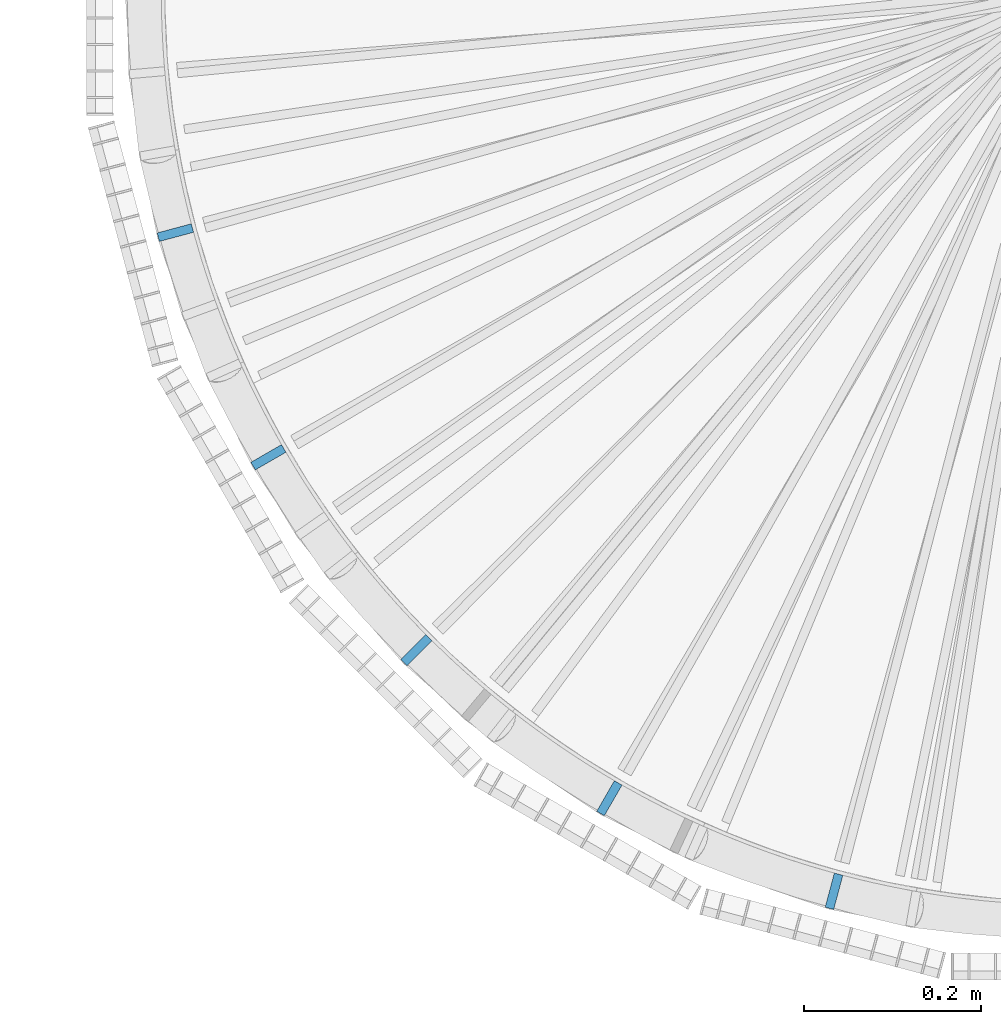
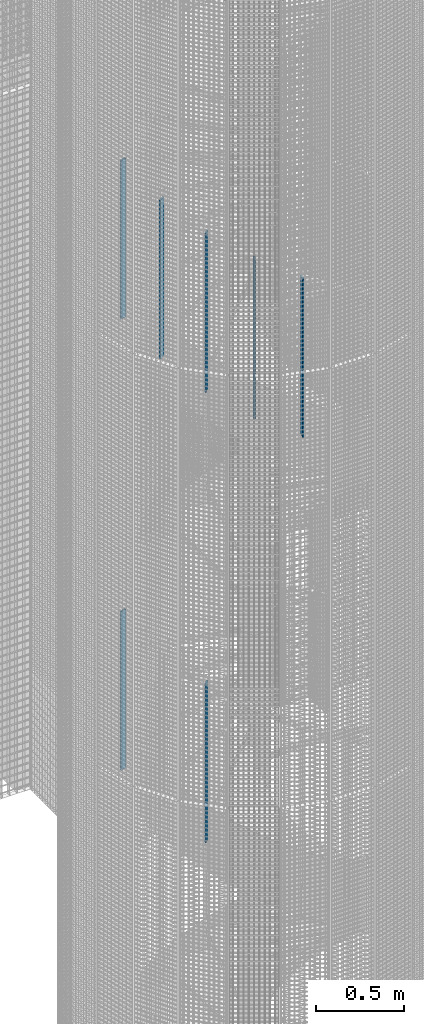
# One storey, part 39 of 1148: 7 columns, 7 elements without a shape of their own.
"""IFC2X3 building model written with IfcOpenShell, lengths in millimetres."""

import ifcopenshell
import ifcopenshell.guid

model = None  # the IFC model being written
_history = None  # IfcOwnerHistory: only IFC2X3 demands one
_inside = {}  # id of a spatial element -> (the spatial element, [elements in it])
_under = {}  # id of a project, library or spatial element -> (it, [spatial elements below it])
_declared = {}  # id of a project -> (the project, [libraries it declares])
_typed = {}  # id of a type object -> (the type object, [elements of that type])
_made_of = {}  # id of a material, layer set ... -> (it, [elements and type objects made of it])


def new_model(schema):
    """Start an empty IFC model of exactly this schema.

    Asked for "IFC4X3", IfcOpenShell would pick the latest addendum, in which some entities
    have other attributes; the version numbers below select the first issue.
    IFC2X3 requires an IfcOwnerHistory on every rooted entity: one is made here for all.
    """
    global model, _history
    if schema == "IFC4X3":
        model = ifcopenshell.file(schema_version=(4, 3, 0, 0))
    else:
        model = ifcopenshell.file(schema=schema)
    _inside.clear()
    _under.clear()
    _declared.clear()
    _typed.clear()
    _made_of.clear()
    _history = None
    if model.schema == "IFC2X3":
        org = make("IfcOrganization", Name="unknown")
        user = make(
            "IfcPersonAndOrganization",
            ThePerson=make("IfcPerson", FamilyName="unknown"),
            TheOrganization=org,
        )
        app = make(
            "IfcApplication",
            ApplicationDeveloper=org,
            Version="unknown",
            ApplicationFullName="unknown",
            ApplicationIdentifier="unknown",
        )
        _history = make(
            "IfcOwnerHistory",
            OwningUser=user,
            OwningApplication=app,
            ChangeAction="ADDED",
            CreationDate=0,
        )
    return model


def make(cls, **values):
    """One entity of the class cls with the attributes given. An attribute that is None is left unset."""
    return model.create_entity(
        cls, **{name: value for name, value in values.items() if value is not None}
    )


def rooted(cls, **values):
    """An entity with a GlobalId (a new one), such as an element, a storey or a relation."""
    return make(cls, GlobalId=ifcopenshell.guid.new(), OwnerHistory=_history, **values)


def si_unit(unit_type, name, prefix=None):
    """IfcSIUnit, for example si_unit("LENGTHUNIT", "METRE", prefix="MILLI")."""
    return make("IfcSIUnit", UnitType=unit_type, Prefix=prefix, Name=name)


def assignment(units):
    """IfcUnitAssignment: the units of a project."""
    return None if units is None else make("IfcUnitAssignment", Units=units)


def point(xyz):
    """IfcCartesianPoint."""
    return None if xyz is None else make("IfcCartesianPoint", Coordinates=xyz)


def direction(xyz):
    """IfcDirection."""
    return None if xyz is None else make("IfcDirection", DirectionRatios=xyz)


def frame(location, z_axis=None, x_axis=None):
    """IfcAxis2Placement3D, a coordinate frame: its origin and axes. An axis left out is left unset."""
    return make(
        "IfcAxis2Placement3D",
        Location=point(location),
        Axis=direction(z_axis),
        RefDirection=direction(x_axis),
    )


def frame_2d(location, x_axis=None):
    """IfcAxis2Placement2D, a coordinate frame in the plane: its origin and x axis."""
    return make(
        "IfcAxis2Placement2D", Location=point(location), RefDirection=direction(x_axis)
    )


def origin_with_axes():
    """The frame at (0, 0, 0) with the z axis (0, 0, 1) and the x axis (1, 0, 0) written out."""
    return frame((0.0, 0.0, 0.0), z_axis=(0.0, 0.0, 1.0), x_axis=(1.0, 0.0, 0.0))


def origin_2d_with_axis():
    """The frame at (0, 0) in the plane with the x axis (1, 0) written out."""
    return frame_2d((0.0, 0.0), x_axis=(1.0, 0.0))


def place(relative_to, where):
    """IfcLocalPlacement: puts the frame where relative to a parent placement (None: the world)."""
    return make(
        "IfcLocalPlacement", PlacementRelTo=relative_to, RelativePlacement=where
    )


def context(
    kind, dimensions, precision=None, world=None, true_north=None, identifier=None
):
    """IfcGeometricRepresentationContext, for example the 3D "Model" context."""
    return make(
        "IfcGeometricRepresentationContext",
        ContextIdentifier=identifier,
        ContextType=kind,
        CoordinateSpaceDimension=dimensions,
        Precision=precision,
        WorldCoordinateSystem=world,
        TrueNorth=true_north,
    )


def subcontext(parent, identifier, kind, view, scale=None):
    """IfcGeometricRepresentationSubContext, for example "Body" below "Model"."""
    return make(
        "IfcGeometricRepresentationSubContext",
        ContextIdentifier=identifier,
        ContextType=kind,
        ParentContext=parent,
        TargetScale=scale,
        TargetView=view,
    )


def project(units=None, contexts=None):
    """IfcProject with its units and contexts."""
    return rooted(
        "IfcProject",
        Name="project",
        RepresentationContexts=contexts,
        UnitsInContext=assignment(units),
    )


def spatial(cls, under=None, at=None, **own):
    """A site, building, storey or space (cls), placed at a placement, below another one or the project."""
    s = rooted(cls, ObjectPlacement=at, **own)
    if under is not None:
        _under.setdefault(under.id(), (under, []))[1].append(s)
    return s


def profile(cls, at=None, kind="AREA", **sizes):
    """A parametric profile (cls). Its sizes go by their IFC names, for example OverallWidth=200.0."""
    return make(cls, ProfileType=kind, Position=at, **sizes)


def rectangle(**sizes):
    """IfcRectangleProfileDef."""
    return profile("IfcRectangleProfileDef", **sizes)


def extrude(swept, where, along, depth):
    """IfcExtrudedAreaSolid: the profile swept, set in the frame where, extruded along a direction by depth."""
    return make(
        "IfcExtrudedAreaSolid",
        SweptArea=swept,
        Position=where,
        ExtrudedDirection=direction(along),
        Depth=depth,
    )


def shape(context_of_items, identifier, shape_type, items):
    """IfcShapeRepresentation: the items that make up one representation, for example the "Body"."""
    return make(
        "IfcShapeRepresentation",
        ContextOfItems=context_of_items,
        RepresentationIdentifier=identifier,
        RepresentationType=shape_type,
        Items=items,
    )


def material(Name=None, Category=None):
    """IfcMaterial."""
    return make("IfcMaterial", Name=Name, Category=Category)


def made_of(thing, what):
    """Note that an element or type object is made of a material, layer set ...; save() writes the relation."""
    if what is not None:
        _made_of.setdefault(what.id(), (what, []))[1].append(thing)
    return thing


def type_object(cls, material=None, **own):
    """A type object (cls), such as IfcWallType, which elements share."""
    return made_of(rooted(cls, **own), material)


def element(
    cls,
    number,
    at=None,
    inside=None,
    cuts=None,
    type_object=None,
    material=None,
    context=None,
    identifier="Body",
    shape_type=None,
    held_by="IfcProductDefinitionShape",
    body=None,
    shapes=None,
    **own,
):
    """One element of the class cls, such as IfcWall. Its Tag is "e" and its number.

    at: its placement. inside: the storey or other place that contains it. cuts: it is an
    opening in that element (IfcRelVoidsElement). A single representation is given by context,
    identifier, shape_type and body (its items); several are given by shapes. held_by: the class
    of the entity that holds the representations. save() writes the other relations.
    """
    e = rooted(cls, Tag="e%d" % number, ObjectPlacement=at, **own)
    if body is not None:
        shapes = [shape(context, identifier, shape_type, body)]
    if shapes is not None:
        e.Representation = make(held_by, Representations=shapes)
    if inside is not None:
        _inside.setdefault(inside.id(), (inside, []))[1].append(e)
    if cuts is not None:
        rooted(
            "IfcRelVoidsElement", RelatingBuildingElement=cuts, RelatedOpeningElement=e
        )
    if type_object is not None:
        _typed.setdefault(type_object.id(), (type_object, []))[1].append(e)
    return made_of(e, material)


def aggregate(whole, parts):
    """IfcRelAggregates: a whole, such as a stair, and the parts it consists of."""
    return rooted("IfcRelAggregates", RelatingObject=whole, RelatedObjects=parts)


def save(model, path):
    """Write the relations noted so far, then the file.

    IfcRelAggregates (storeys below a building ...), IfcRelContainedInSpatialStructure (elements
    in a storey), IfcRelDefinesByType, IfcRelAssociatesMaterial and IfcRelDeclares: one each for
    every whole, place, type object, material and project.
    """
    for whole, parts in _under.values():
        aggregate(whole, parts)
    for where, things in _inside.values():
        rooted(
            "IfcRelContainedInSpatialStructure",
            RelatedElements=things,
            RelatingStructure=where,
        )
    for kind, things in _typed.values():
        rooted("IfcRelDefinesByType", RelatedObjects=things, RelatingType=kind)
    for what, things in _made_of.values():
        rooted("IfcRelAssociatesMaterial", RelatedObjects=things, RelatingMaterial=what)
    for by, libraries in _declared.values():
        rooted("IfcRelDeclares", RelatingContext=by, RelatedDefinitions=libraries)
    model.write(path)


model = new_model("IFC2X3")

# Units and contexts
model_context = context("Model", 3, precision=1e-05, world=origin_with_axes())
body_context = subcontext(model_context, "Body", "Model", "MODEL_VIEW")
ifc_project = project(units=[si_unit("LENGTHUNIT", "METRE", prefix="MILLI"), si_unit("AREAUNIT", "SQUARE_METRE"), si_unit("VOLUMEUNIT", "CUBIC_METRE"), si_unit("MASSUNIT", "GRAM", prefix="KILO"), si_unit("TIMEUNIT", "SECOND"), si_unit("PLANEANGLEUNIT", "RADIAN"), si_unit("SOLIDANGLEUNIT", "STERADIAN"), si_unit("THERMODYNAMICTEMPERATUREUNIT", "DEGREE_CELSIUS"), si_unit("LUMINOUSINTENSITYUNIT", "LUMEN")], contexts=[model_context])

# Site, building, storey
site_placement = place(None, origin_with_axes())
site = spatial("IfcSite", under=ifc_project, at=site_placement, Name="Undefined", CompositionType="ELEMENT")
building_placement = place(site_placement, origin_with_axes())
building = spatial("IfcBuilding", under=site, at=building_placement, Name="Undefined", CompositionType="ELEMENT")
storey_placement = place(building_placement, origin_with_axes())
storey = spatial("IfcBuildingStorey", under=building, at=storey_placement, Name="Undefined", CompositionType="ELEMENT", Elevation=0.0)

# Assembly, column
assembly_1_placement = place(storey_placement, origin_with_axes())
assembly_1 = element("IfcElementAssembly", 1, at=assembly_1_placement, inside=storey, Name="MONTANT", AssemblyPlace="NOTDEFINED", PredefinedType="NOTDEFINED")
ifc_material = material(Name="STEEL/S235JR")
column_type = type_object("IfcColumnType", Name="PL10*40", PredefinedType="NOTDEFINED")
column_1_placement = place(assembly_1_placement, frame((20687.2092244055, -527.000000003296, 8994.32000000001), z_axis=(0.0, 0.0, 1.0), x_axis=(0.866025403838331, 0.499999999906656, 0.0)))
column_1 = element("IfcColumn", 2, at=column_1_placement, type_object=column_type, material=ifc_material, Name="MONTANT", context=body_context, shape_type="SweptSolid", body=[
    extrude(rectangle(XDim=10.0, YDim=40.0, at=origin_2d_with_axis()), frame((0.0, 0.0, 1100.0), z_axis=(0.0, 0.0, -1.0), x_axis=(0.0, 1.0, 0.0)), (0.0, 0.0, 1.0), 1100.0),
])
aggregate(assembly_1, [column_1])

assembly_2_placement = place(storey_placement, origin_with_axes())
assembly_2 = element("IfcElementAssembly", 3, at=assembly_2_placement, inside=storey, Name="MONTANT", AssemblyPlace="NOTDEFINED", PredefinedType="NOTDEFINED")
column_2_placement = place(assembly_2_placement, frame((20581.9141790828, -272.795273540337, 9150.84000000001), z_axis=(0.0, 0.0, 1.0), x_axis=(0.965925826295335, 0.258819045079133, 0.0)))
column_2 = element("IfcColumn", 4, at=column_2_placement, type_object=column_type, material=ifc_material, Name="MONTANT", context=body_context, shape_type="SweptSolid", body=[
    extrude(rectangle(XDim=10.0, YDim=40.0, at=origin_2d_with_axis()), frame((0.0, 0.0, 1100.0), z_axis=(0.0, 0.0, -1.0), x_axis=(0.0, 1.0, 0.0)), (0.0, 0.0, 1.0), 1100.0),
])
aggregate(assembly_2, [column_2])

assembly_3_placement = place(storey_placement, origin_with_axes())
assembly_3 = element("IfcElementAssembly", 5, at=assembly_3_placement, inside=storey, Name="MONTANT", AssemblyPlace="NOTDEFINED", PredefinedType="NOTDEFINED")
column_3_placement = place(assembly_3_placement, frame((20854.7094526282, -745.290547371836, 8837.80000000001), z_axis=(0.0, 0.0, 1.0), x_axis=(0.707106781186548, 0.707106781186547, 0.0)))
column_3 = element("IfcColumn", 6, at=column_3_placement, type_object=column_type, material=ifc_material, Name="MONTANT", context=body_context, shape_type="SweptSolid", body=[
    extrude(rectangle(XDim=10.0, YDim=40.0, at=origin_2d_with_axis()), frame((0.0, 0.0, 1100.0), z_axis=(0.0, 0.0, -1.0), x_axis=(0.0, 1.0, 0.0)), (0.0, 0.0, 1.0), 1100.0),
])
aggregate(assembly_3, [column_3])

assembly_4_placement = place(storey_placement, origin_with_axes())
assembly_4 = element("IfcElementAssembly", 7, at=assembly_4_placement, inside=storey, Name="MONTANT", AssemblyPlace="NOTDEFINED", PredefinedType="NOTDEFINED")
column_4_placement = place(assembly_4_placement, frame((21072.9999999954, -912.790775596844, 8681.28000000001), z_axis=(0.0, 0.0, 1.0), x_axis=(0.49999999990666, 0.866025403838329, 0.0)))
column_4 = element("IfcColumn", 8, at=column_4_placement, type_object=column_type, material=ifc_material, Name="MONTANT", context=body_context, shape_type="SweptSolid", body=[
    extrude(rectangle(XDim=10.0, YDim=40.0, at=origin_2d_with_axis()), frame((0.0, 0.0, 1100.0), z_axis=(0.0, 0.0, -1.0), x_axis=(0.0, 1.0, 0.0)), (0.0, 0.0, 1.0), 1100.0),
])
aggregate(assembly_4, [column_4])

assembly_5_placement = place(storey_placement, origin_with_axes())
assembly_5 = element("IfcElementAssembly", 9, at=assembly_5_placement, inside=storey, Name="MONTANT", AssemblyPlace="NOTDEFINED", PredefinedType="NOTDEFINED")
column_5_placement = place(assembly_5_placement, frame((21327.2047264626, -1018.08582090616, 8524.76000000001), z_axis=(0.0, 0.0, 1.0), x_axis=(0.258819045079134, 0.965925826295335, 0.0)))
column_5 = element("IfcColumn", 10, at=column_5_placement, type_object=column_type, material=ifc_material, Name="MONTANT", context=body_context, shape_type="SweptSolid", body=[
    extrude(rectangle(XDim=10.0, YDim=40.0, at=origin_2d_with_axis()), frame((0.0, 0.0, 1100.0), z_axis=(0.0, 0.0, -1.0), x_axis=(0.0, 1.0, 0.0)), (0.0, 0.0, 1.0), 1100.0),
])
aggregate(assembly_5, [column_5])

assembly_6_placement = place(storey_placement, origin_with_axes())
assembly_6 = element("IfcElementAssembly", 11, at=assembly_6_placement, inside=storey, Name="MONTANT", AssemblyPlace="NOTDEFINED", PredefinedType="NOTDEFINED")
column_6_placement = place(assembly_6_placement, frame((20581.9141790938, -272.795273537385, 6026.28000000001), z_axis=(0.0, 0.0, 1.0), x_axis=(0.965925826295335, 0.258819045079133, 0.0)))
column_6 = element("IfcColumn", 12, at=column_6_placement, type_object=column_type, material=ifc_material, Name="MONTANT", context=body_context, shape_type="SweptSolid", body=[
    extrude(rectangle(XDim=10.0, YDim=40.0, at=origin_2d_with_axis()), frame((0.0, 0.0, 1100.0), z_axis=(0.0, 0.0, -1.0), x_axis=(0.0, 1.0, 0.0)), (0.0, 0.0, 1.0), 1100.0),
])
aggregate(assembly_6, [column_6])

assembly_7_placement = place(storey_placement, origin_with_axes())
assembly_7 = element("IfcElementAssembly", 13, at=assembly_7_placement, inside=storey, Name="MONTANT", AssemblyPlace="NOTDEFINED", PredefinedType="NOTDEFINED")
column_7_placement = place(assembly_7_placement, frame((20854.7094526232, -745.290547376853, 5717.24), z_axis=(0.0, 0.0, 1.0), x_axis=(0.707106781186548, 0.707106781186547, 0.0)))
column_7 = element("IfcColumn", 14, at=column_7_placement, type_object=column_type, material=ifc_material, Name="MONTANT", context=body_context, shape_type="SweptSolid", body=[
    extrude(rectangle(XDim=10.0, YDim=40.0, at=origin_2d_with_axis()), frame((0.0, 0.0, 1100.0), z_axis=(0.0, 0.0, -1.0), x_axis=(0.0, 1.0, 0.0)), (0.0, 0.0, 1.0), 1100.0),
])
aggregate(assembly_7, [column_7])

save(model, "model.ifc")
